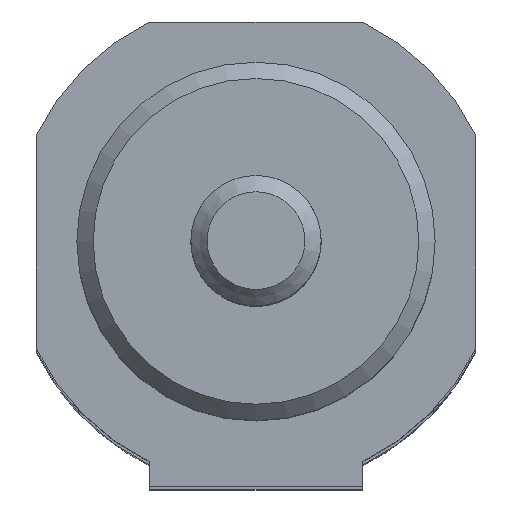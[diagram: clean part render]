
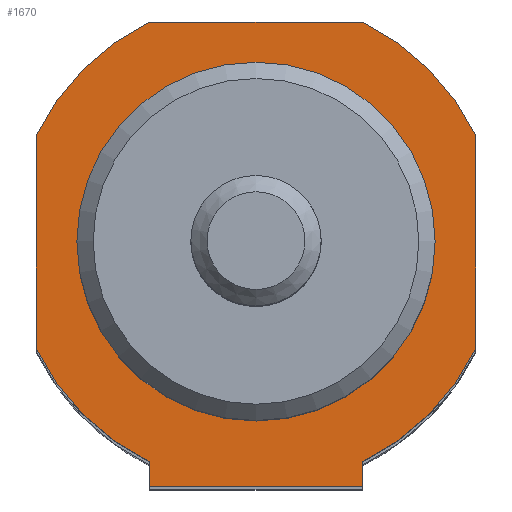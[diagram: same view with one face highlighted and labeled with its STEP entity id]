
A CAD part, top view. The second image highlights one B-rep face of the part: STEP entity #1670.
In plain terms, the highlighted planar face has unit normal (0, 0, 1).
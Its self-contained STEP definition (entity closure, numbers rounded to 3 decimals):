
#101=CARTESIAN_POINT('',(6.538,-15.,156.));
#102=VERTEX_POINT('',#101);
#103=CARTESIAN_POINT('',(-6.538,-15.,156.));
#104=VERTEX_POINT('',#103);
#105=CARTESIAN_POINT('',(6.538,-15.,156.));
#106=DIRECTION('',(-1.0,0.0,0.0));
#107=VECTOR('',#106,13.077);
#108=LINE('',#105,#107);
#109=EDGE_CURVE('',#102,#104,#108,.T.);
#257=CARTESIAN_POINT('',(-6.538,-13.5,156.));
#258=VERTEX_POINT('',#257);
#272=CARTESIAN_POINT('',(-6.538,-13.5,156.));
#273=DIRECTION('',(0.0,-1.0,0.0));
#274=VECTOR('',#273,1.5);
#275=LINE('',#272,#274);
#276=EDGE_CURVE('',#258,#104,#275,.T.);
#288=CARTESIAN_POINT('',(6.538,-13.5,156.));
#289=VERTEX_POINT('',#288);
#296=CARTESIAN_POINT('',(6.538,-13.5,156.));
#297=DIRECTION('',(0.0,-1.0,0.0));
#298=VECTOR('',#297,1.5);
#299=LINE('',#296,#298);
#300=EDGE_CURVE('',#289,#102,#299,.T.);
#1398=CARTESIAN_POINT('',(11.0,0.,156.));
#1399=VERTEX_POINT('',#1398);
#1400=CARTESIAN_POINT('',(0.,0.,156.));
#1401=DIRECTION('',(0.0,0.0,-1.0));
#1402=DIRECTION('',(-1.0,0.0,0.0));
#1403=AXIS2_PLACEMENT_3D('',#1400,#1401,#1402);
#1404=CIRCLE('',#1403,11.0);
#1405=EDGE_CURVE('',#1399,#1399,#1404,.T.);
#1490=CARTESIAN_POINT('',(-6.538,13.5,156.));
#1491=VERTEX_POINT('',#1490);
#1492=CARTESIAN_POINT('',(6.538,13.5,156.));
#1493=VERTEX_POINT('',#1492);
#1494=CARTESIAN_POINT('',(-6.538,13.5,156.));
#1495=DIRECTION('',(1.0,0.0,0.0));
#1496=VECTOR('',#1495,13.077);
#1497=LINE('',#1494,#1496);
#1498=EDGE_CURVE('',#1491,#1493,#1497,.T.);
#1521=CARTESIAN_POINT('',(13.5,6.538,156.));
#1522=VERTEX_POINT('',#1521);
#1523=CARTESIAN_POINT('',(0.,0.,156.0));
#1524=DIRECTION('',(0.,0.,-1.0));
#1525=DIRECTION('',(0.9,0.436,0.));
#1526=AXIS2_PLACEMENT_3D('',#1523,#1524,#1525);
#1527=CIRCLE('',#1526,15.);
#1528=EDGE_CURVE('',#1493,#1522,#1527,.T.);
#1546=CARTESIAN_POINT('',(13.5,-6.538,156.));
#1547=VERTEX_POINT('',#1546);
#1548=CARTESIAN_POINT('',(13.5,6.538,156.));
#1549=DIRECTION('',(0.0,-1.0,0.0));
#1550=VECTOR('',#1549,13.077);
#1551=LINE('',#1548,#1550);
#1552=EDGE_CURVE('',#1522,#1547,#1551,.T.);
#1570=CARTESIAN_POINT('',(0.,0.,156.0));
#1571=DIRECTION('',(0.,0.,-1.0));
#1572=DIRECTION('',(0.436,-0.9,0.));
#1573=AXIS2_PLACEMENT_3D('',#1570,#1571,#1572);
#1574=CIRCLE('',#1573,15.);
#1575=EDGE_CURVE('',#1547,#289,#1574,.T.);
#1588=CARTESIAN_POINT('',(-13.5,-6.538,156.));
#1589=VERTEX_POINT('',#1588);
#1590=CARTESIAN_POINT('',(0.,0.,156.0));
#1591=DIRECTION('',(0.,0.,-1.0));
#1592=DIRECTION('',(-0.9,-0.436,0.));
#1593=AXIS2_PLACEMENT_3D('',#1590,#1591,#1592);
#1594=CIRCLE('',#1593,15.);
#1595=EDGE_CURVE('',#258,#1589,#1594,.T.);
#1613=CARTESIAN_POINT('',(-13.5,6.538,156.));
#1614=VERTEX_POINT('',#1613);
#1615=CARTESIAN_POINT('',(-13.5,-6.538,156.));
#1616=DIRECTION('',(0.0,1.0,0.0));
#1617=VECTOR('',#1616,13.077);
#1618=LINE('',#1615,#1617);
#1619=EDGE_CURVE('',#1589,#1614,#1618,.T.);
#1637=CARTESIAN_POINT('',(0.,0.,156.0));
#1638=DIRECTION('',(0.,0.,-1.0));
#1639=DIRECTION('',(-0.436,0.9,0.));
#1640=AXIS2_PLACEMENT_3D('',#1637,#1638,#1639);
#1641=CIRCLE('',#1640,15.);
#1642=EDGE_CURVE('',#1614,#1491,#1641,.T.);
#1650=CARTESIAN_POINT('',(0.,0.0,156.));
#1651=DIRECTION('',(0.0,0.0,1.0));
#1652=DIRECTION('',(1.0,0.0,0.0));
#1653=AXIS2_PLACEMENT_3D('',#1650,#1651,#1652);
#1654=PLANE('',#1653);
#1655=ORIENTED_EDGE('',*,*,#1498,.F.);
#1656=ORIENTED_EDGE('',*,*,#1642,.F.);
#1657=ORIENTED_EDGE('',*,*,#1619,.F.);
#1658=ORIENTED_EDGE('',*,*,#1595,.F.);
#1659=ORIENTED_EDGE('',*,*,#276,.T.);
#1660=ORIENTED_EDGE('',*,*,#109,.F.);
#1661=ORIENTED_EDGE('',*,*,#300,.F.);
#1662=ORIENTED_EDGE('',*,*,#1575,.F.);
#1663=ORIENTED_EDGE('',*,*,#1552,.F.);
#1664=ORIENTED_EDGE('',*,*,#1528,.F.);
#1665=EDGE_LOOP('',(#1655,#1656,#1657,#1658,#1659,#1660,#1661,#1662,#1663,#1664));
#1666=FACE_OUTER_BOUND('',#1665,.T.);
#1667=ORIENTED_EDGE('',*,*,#1405,.T.);
#1668=EDGE_LOOP('',(#1667));
#1669=FACE_BOUND('',#1668,.T.);
#1670=ADVANCED_FACE('',(#1666,#1669),#1654,.T.);
